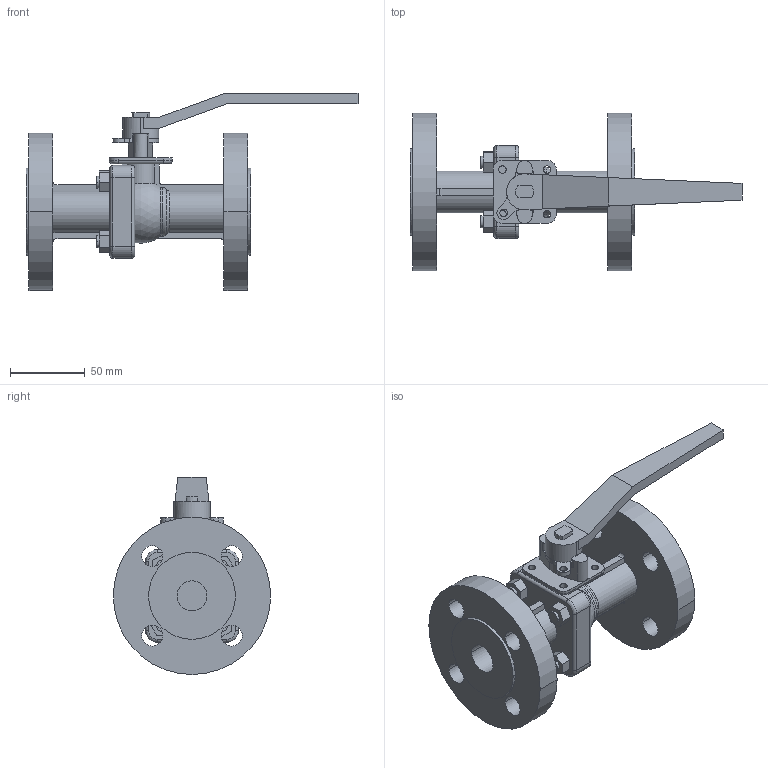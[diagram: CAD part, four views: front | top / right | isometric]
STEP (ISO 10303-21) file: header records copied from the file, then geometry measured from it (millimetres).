
FILE_DESCRIPTION( (''), '2;1');
FILE_NAME ('PC2091.16192.BLV-2SF EN PN16 20A_6744.stp','2026-05-28T09:11:12',(''),(''),'spGate 21.9.4 (****-****-****-****)','','');
FILE_SCHEMA (('AUTOMOTIVE_DESIGN'));
Length unit declared in the file: millimetre
Products named in the file (2): Assembly; BLV-2SFEN 20A
Assembly tree (1 placements, depth 2):
  Assembly
    BLV-2SFEN 20A
Bounding box: 221.5 x 105 x 131.5 mm (x, y, z)
Volume: 408116.3 mm3; surface area: 91164.3 mm2
Topology: 1 solids, 1 shells, 211 faces, 555 edges, 359 vertices
Faces by surface type: plane 98, cylinder 96, bspline 16, sphere 1
Entity records: 11499 total; most frequent: CARTESIAN_POINT 1741, DIRECTION 1124, ORIENTED_EDGE 1110, COLOUR_RGB 767, PRESENTATION_STYLE_ASSIGNMENT 767, STYLED_ITEM 767, EDGE_CURVE 555, DRAUGHTING_PRE_DEFINED_CURVE_FONT 555
